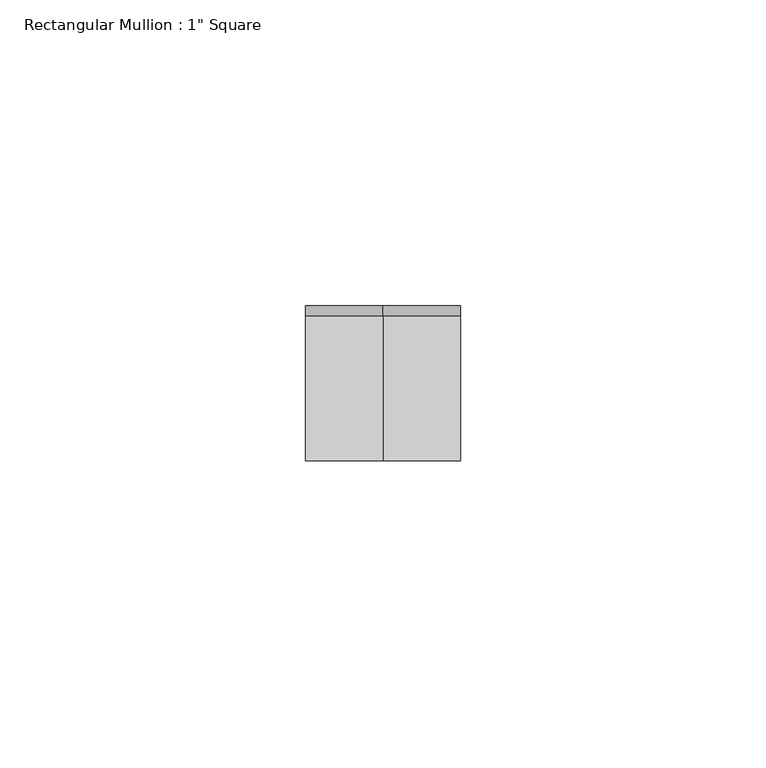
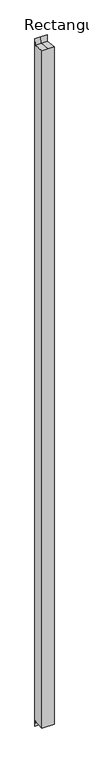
"""IFC4 building model written with IfcOpenShell, lengths in millimetres: member geometry."""

from ifc_helpers import new_model, si_unit, origin, place, context, project, spatial, faceted_brep, source, transform, mapped, element, save


def member_7f371842(model_context):
    return source(origin(), model_context, "Body", "Brep", [
        faceted_brep([(-12.7, 12.7, 11.903125), (0.0, 12.7, 11.903125), (12.7, 12.7, 11.903125), (12.7, 12.7, -1510.503125), (-12.7, 12.7, -1510.503125), (-12.7, -12.7, 1.4996528), (-12.7, 11.0128906, -1.4878906), (-12.7, 11.0128906, -1497.1121094), (-12.7, -12.7, -1500.0996528), (12.7, -12.7, 1.4996528), (0.0, -12.7, 1.4996528), (12.7, -12.7, -1500.0996528), (12.7, 11.0128906, -1.4878906), (12.7, 11.0128906, -1497.1121094), (0.0, 11.0128906, -1.4878906)], [[[0, 1, 2, 3, 4]], [[5, 6, 0, 4, 7, 8]], [[9, 10, 5, 8, 11]], [[2, 12, 9, 11, 13, 3]], [[2, 1, 14, 12]], [[1, 0, 6, 14]], [[6, 5, 10, 14]], [[10, 9, 12, 14]], [[3, 13, 7, 4]], [[13, 11, 8, 7]]]),
    ])


if __name__ == "__main__":
    model = new_model("IFC4")
    model_context = context("Model", 3, world=origin())
    ifc_project = project(units=[si_unit("LENGTHUNIT", "METRE", prefix="MILLI")], contexts=[model_context])
    site = spatial("IfcSite", under=ifc_project)
    building = spatial("IfcBuilding", under=site)
    placement = place(None, origin())
    member_shape = member_7f371842(model_context)
    element("IfcMember", 1, ObjectType="Rectangular Mullion : 1\" Square", at=placement, inside=building, context=model_context, shape_type="MappedRepresentation", body=[
        mapped(member_shape, transform((0.0, 0.0, 0.0), x_axis=(1.0, 0.0, 0.0), y_axis=(0.0, 1.0, 0.0), z_axis=(0.0, 0.0, 1.0))),
    ])
    save(model, "model.ifc")
